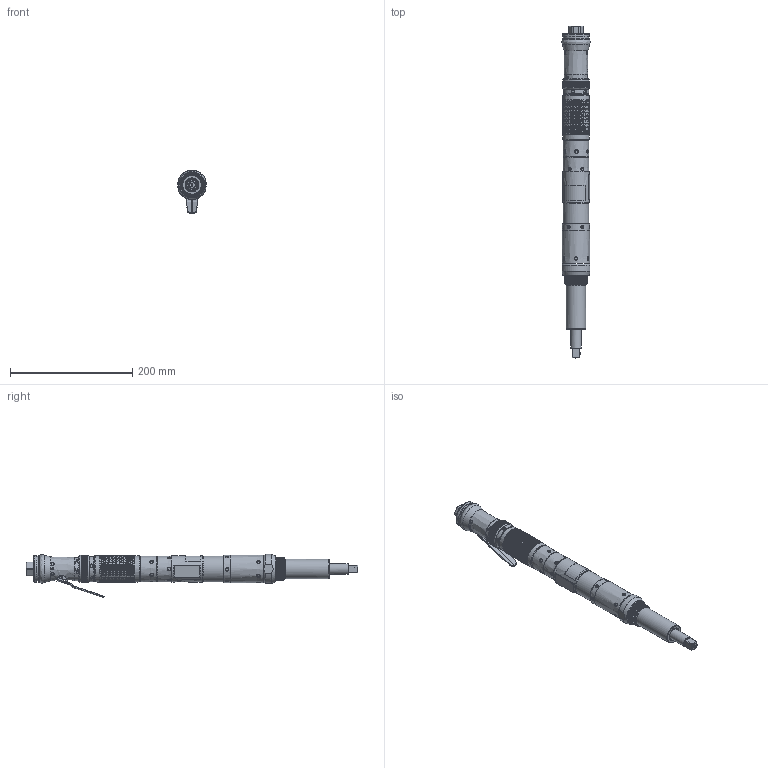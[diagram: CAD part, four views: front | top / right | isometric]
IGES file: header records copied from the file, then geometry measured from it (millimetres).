
Global section: file name: C:\Documents and Settings\sunni\Desktop\16595167\16595167.igs; native system: NX V4.0; preprocessor: UGS NX IGES V4.0; date: 20070808.103944; units: millimetre
Bounding box: 46.91 x 542.09 x 70.71 mm (x, y, z)
Surface area: 94503.1 mm2 (no closed solid volume)
Topology: 0 solids, 0 shells, 957 faces, 7406 edges, 7105 vertices
Faces by surface type: bspline 955, offset 2
